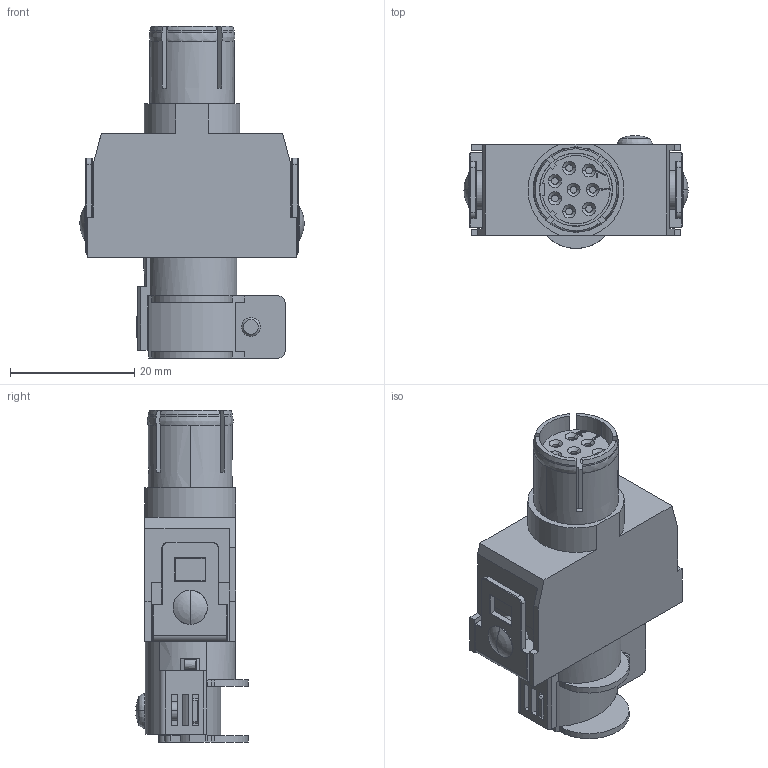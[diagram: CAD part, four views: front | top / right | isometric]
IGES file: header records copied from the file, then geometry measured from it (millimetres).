
Start section:  PTC IGES file: c-1103259-1-a-3d.igs
Global section: file name: c-1103259-1-a-3d.igs; native system: Creo Parametric by Parametric Technology Corporation; preprocessor: 2013050; author: workeradm; organization: Unknown; units: millimetre
Bounding box: 36.14 x 18.18 x 53.5 mm (x, y, z)
Surface area: 9971.2 mm2 (no closed solid volume)
Topology: 0 solids, 0 shells, 393 faces, 2020 edges, 2014 vertices
Faces by surface type: bspline 207, revolution 186
